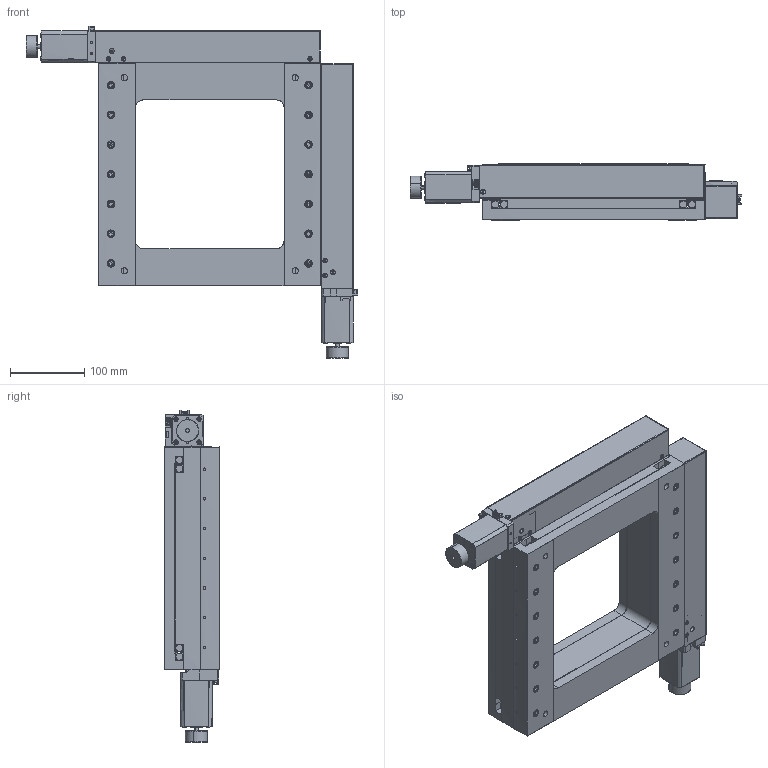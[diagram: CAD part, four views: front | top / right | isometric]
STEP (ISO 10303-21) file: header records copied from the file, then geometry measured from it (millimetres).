
FILE_DESCRIPTION (( 'STEP AP214' ), '1' );
FILE_NAME ('TYA300200-L2-M42.STEP', '2025-01-03T08:02:49', ( '' ), ( '' ), 'SwSTEP 2.0', 'SolidWorks 2020', '' );
FILE_SCHEMA (( 'AUTOMOTIVE_DESIGN' ));
Length unit declared in the file: millimetre
Products named in the file (1): TYA300200-L2-M42
Bounding box: 446.9 x 75 x 446.9 mm (x, y, z)
Surface area: 695544.6 mm2 (no closed solid volume)
Topology: 0 solids, 79 shells, 1046 faces, 3554 edges, 2501 vertices
Faces by surface type: plane 542, cylinder 298, torus 100, cone 90, sphere 16
Full cylindrical faces by diameter (mm): 20 x2
Entity records: 58669 total; most frequent: CARTESIAN_POINT 32982, ORIENTED_EDGE 5725, EDGE_CURVE 3469, B_SPLINE_CURVE_WITH_KNOTS 3463, VERTEX_POINT 2501, DIRECTION 2096, EDGE_LOOP 1388, AXIS2_PLACEMENT_3D 1045
